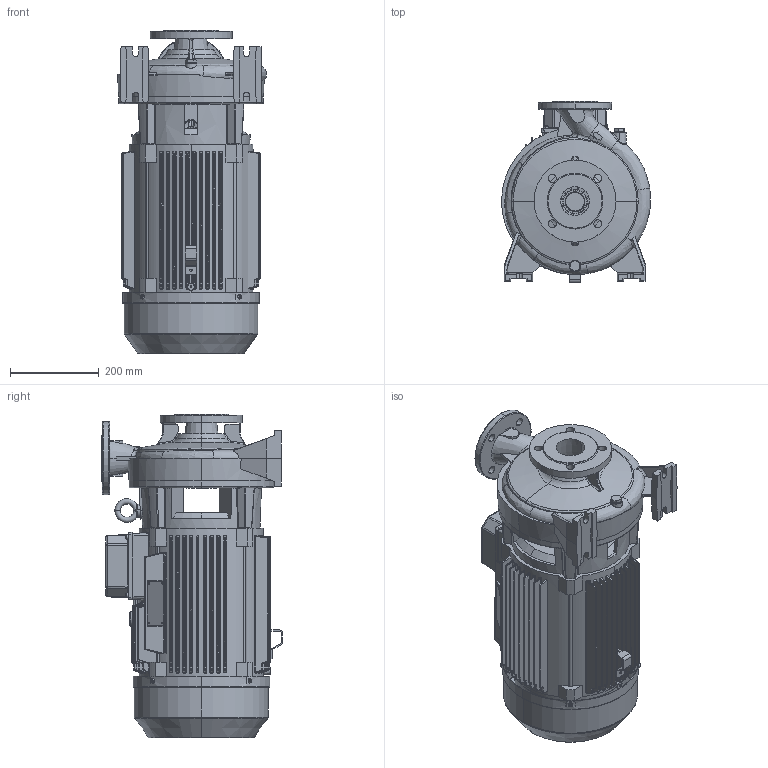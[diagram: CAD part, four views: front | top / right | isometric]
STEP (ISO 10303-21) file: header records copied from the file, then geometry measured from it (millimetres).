
FILE_DESCRIPTION (( 'STEP AP203' ), '1' );
FILE_NAME ('CN 50-250A.STEP', '2020-03-05T16:14:02', ( '' ), ( '' ), 'SwSTEP 2.0', 'SolidWorks 2019', '' );
FILE_SCHEMA (( 'CONFIG_CONTROL_DESIGN' ));
Length unit declared in the file: millimetre
Products named in the file (2): CN 50-250A
Bounding box: 335.94 x 407.92 x 730.5 mm (x, y, z)
Surface area: 1955099.6 mm2 (no closed solid volume)
Topology: 0 solids, 48 shells, 2457 faces, 8145 edges, 5551 vertices
Faces by surface type: plane 884, bspline 676, cylinder 522, cone 258, torus 109, sphere 8
Entity records: 143044 total; most frequent: CARTESIAN_POINT 80731, ORIENTED_EDGE 12961, DIRECTION 10677, EDGE_CURVE 8113, VERTEX_POINT 5551, VECTOR 4045, LINE 4045, AXIS2_PLACEMENT_3D 3316
